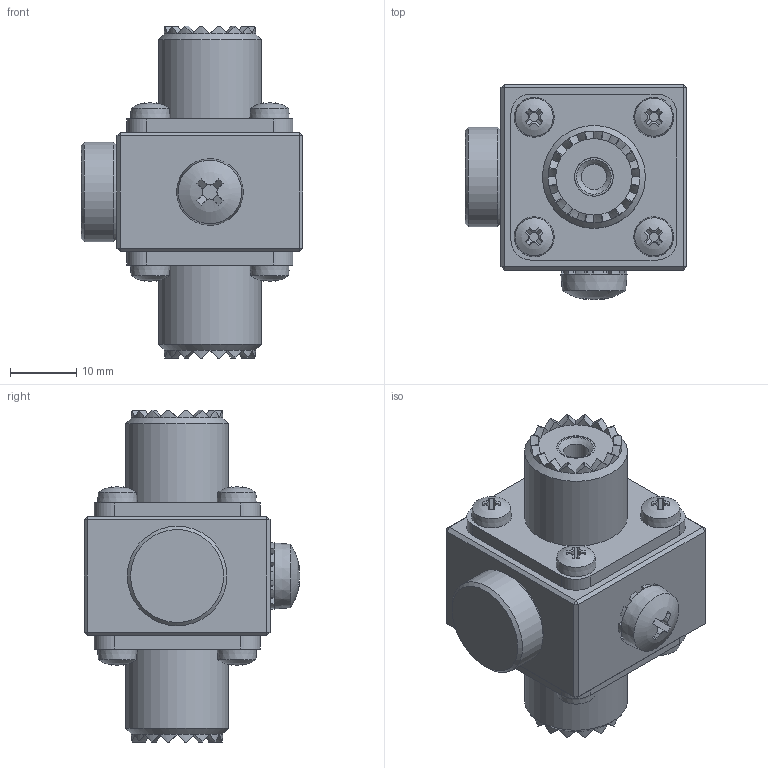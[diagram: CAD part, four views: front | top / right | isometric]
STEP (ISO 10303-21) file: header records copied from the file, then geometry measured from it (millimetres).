
FILE_DESCRIPTION(/* description */ (''),/* implementation_level */ '2;1');
FILE_NAME(/* name */ 'K:\PROJEKTY ROZPRACOVANÉ\MODELY DO KATALOGU\KO\3D - STEP\KO-11G.stp',/* time_stamp */ '2018-05-17T12:19:05+02:00',/* author */ ('admin'),/* organization */ (''),/* preprocessor_version */ 'ST-DEVELOPER v16.1',/* originating_system */ 'Autodesk Inventor 2016',/* authorisation */ '');
FILE_SCHEMA (('AUTOMOTIVE_DESIGN { 1 0 10303 214 3 1 1 }'));
Length unit declared in the file: millimetre
Products named in the file (7): KOSTKA KO-12G; ŠROUB; DIN 6798 - A  5,3; DIN 7985 (Z) - M5x6-Z; KONEKTOR UHF; DIN 7985 (H) - M3x4-H; KO-12G
Assembly tree (14 placements, depth 2):
  KO-12G
    KOSTKA KO-12G
    ŠROUB
    DIN 6798 - A  5,3
    DIN 7985 (Z) - M5x6-Z
    KONEKTOR UHF  x2
    DIN 7985 (H) - M3x4-H  x8
Bounding box: 33.4 x 32.49 x 50 mm (x, y, z)
Volume: 23875.8 mm3; surface area: 11126.2 mm2
Topology: 14 solids, 14 shells, 653 faces, 1617 edges, 1014 vertices
Faces by surface type: plane 276, cylinder 165, cone 130, bspline 64, sphere 9, torus 9
Full cylindrical faces by diameter (mm): 2.459 x4, 2.75 x8, 3 x10, 3.5 x8, 3.8 x2, 4.6 x1, 5 x1, 5.3 x1, 5.8 x2, 12 x3, 14.4 x2, 15 x1, 15.5 x2
Entity records: 8822 total; most frequent: CARTESIAN_POINT 2310, DIRECTION 1350, ORIENTED_EDGE 1264, EDGE_CURVE 632, AXIS2_PLACEMENT_3D 538, VERTEX_POINT 410, EDGE_LOOP 342, FACE_OUTER_BOUND 279
